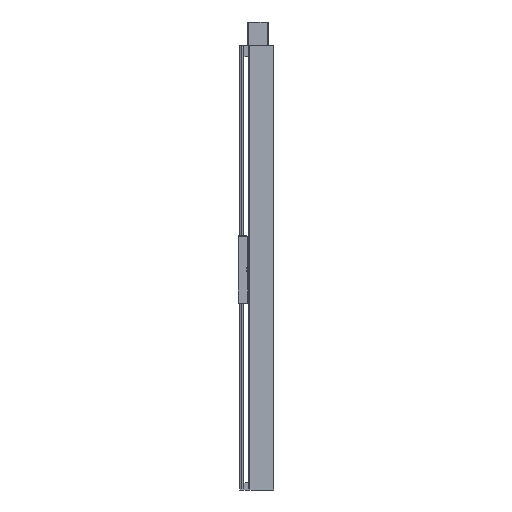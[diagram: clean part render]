
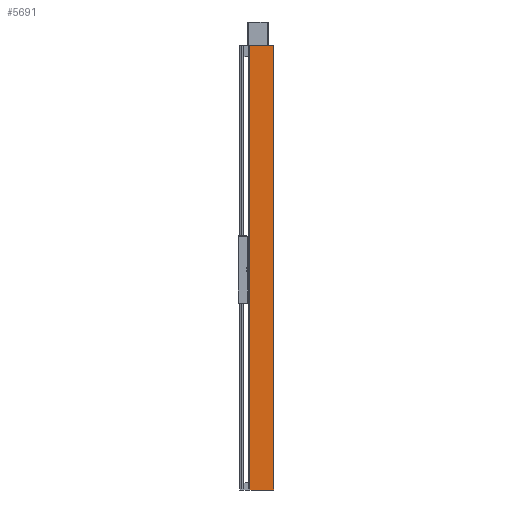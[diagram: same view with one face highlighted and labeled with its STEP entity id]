
A CAD part, left-side view. The second image highlights one B-rep face of the part: STEP entity #5691.
In plain terms, the highlighted planar face has unit normal (-1, 0, 0).
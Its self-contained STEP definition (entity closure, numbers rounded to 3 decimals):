
#1937=CARTESIAN_POINT('',(-68.,65.5,1195.0));
#1938=VERTEX_POINT('',#1937);
#1946=CARTESIAN_POINT('',(-68.0,0.5,1195.0));
#1947=VERTEX_POINT('',#1946);
#1948=CARTESIAN_POINT('',(-68.0,0.5,1195.0));
#1949=DIRECTION('',(0.0,1.0,0.0));
#1950=VECTOR('',#1949,65.0);
#1951=LINE('',#1948,#1950);
#1952=EDGE_CURVE('',#1947,#1938,#1951,.T.);
#4946=CARTESIAN_POINT('',(-68.0,0.5,-20.0));
#4947=VERTEX_POINT('',#4946);
#4956=CARTESIAN_POINT('',(-68.,65.5,-20.0));
#4957=VERTEX_POINT('',#4956);
#4958=CARTESIAN_POINT('',(-68.,65.5,-20.0));
#4959=DIRECTION('',(0.0,-1.0,0.0));
#4960=VECTOR('',#4959,65.0);
#4961=LINE('',#4958,#4960);
#4962=EDGE_CURVE('',#4957,#4947,#4961,.T.);
#5640=CARTESIAN_POINT('',(-68.0,0.5,-20.0));
#5641=DIRECTION('',(0.0,0.0,1.0));
#5642=VECTOR('',#5641,1215.0);
#5643=LINE('',#5640,#5642);
#5644=EDGE_CURVE('',#4947,#1947,#5643,.T.);
#5675=CARTESIAN_POINT('',(-68.0,0.5,0.0));
#5676=DIRECTION('',(-1.0,0.0,0.0));
#5677=DIRECTION('',(0.0,0.0,1.0));
#5678=AXIS2_PLACEMENT_3D('',#5675,#5676,#5677);
#5679=PLANE('',#5678);
#5680=CARTESIAN_POINT('',(-68.,65.5,-20.0));
#5681=DIRECTION('',(0.0,0.0,1.0));
#5682=VECTOR('',#5681,1215.0);
#5683=LINE('',#5680,#5682);
#5684=EDGE_CURVE('',#4957,#1938,#5683,.T.);
#5685=ORIENTED_EDGE('',*,*,#5684,.F.);
#5686=ORIENTED_EDGE('',*,*,#4962,.T.);
#5687=ORIENTED_EDGE('',*,*,#5644,.T.);
#5688=ORIENTED_EDGE('',*,*,#1952,.T.);
#5689=EDGE_LOOP('',(#5685,#5686,#5687,#5688));
#5690=FACE_OUTER_BOUND('',#5689,.T.);
#5691=ADVANCED_FACE('',(#5690),#5679,.T.);
